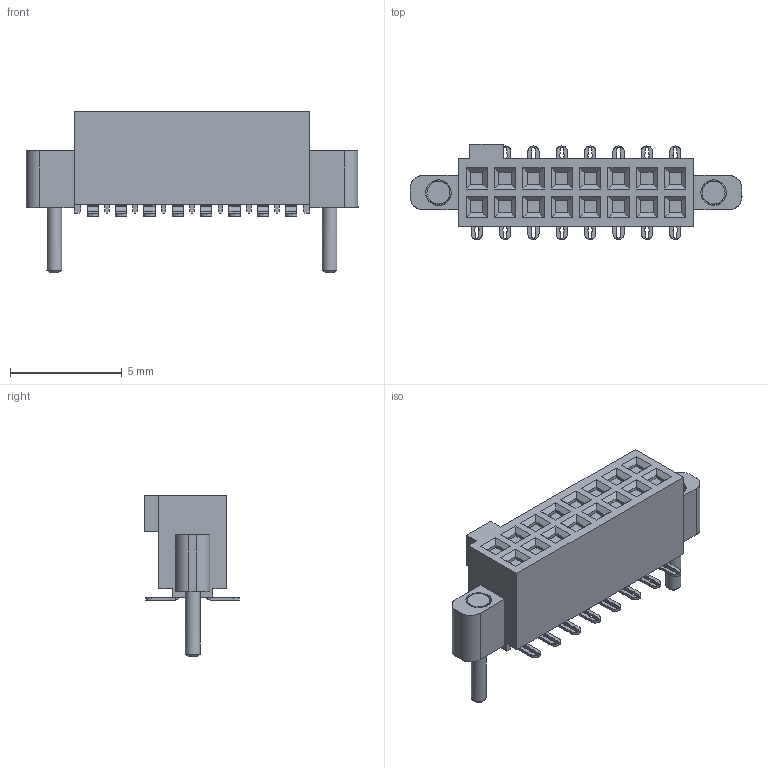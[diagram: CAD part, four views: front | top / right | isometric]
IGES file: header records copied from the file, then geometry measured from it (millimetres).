
Start section: ZWSOFT
Global section: file name: 3601-S016-D11MXXR11.igs; native system: ZW3D; preprocessor: 1.0; author: ZW3D; organization: ZWSOFT; date: 240423.113722; units: millimetre
Bounding box: 14.86 x 4.25 x 7.25 mm (x, y, z)
Surface area: 332.4 mm2 (no closed solid volume)
Topology: 0 solids, 0 shells, 1041 faces, 5408 edges, 5376 vertices
Faces by surface type: bspline 1041
